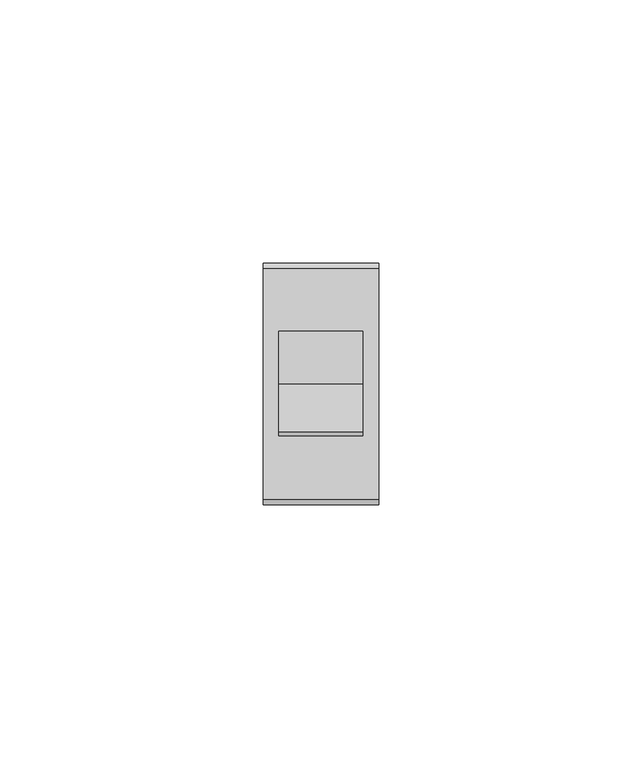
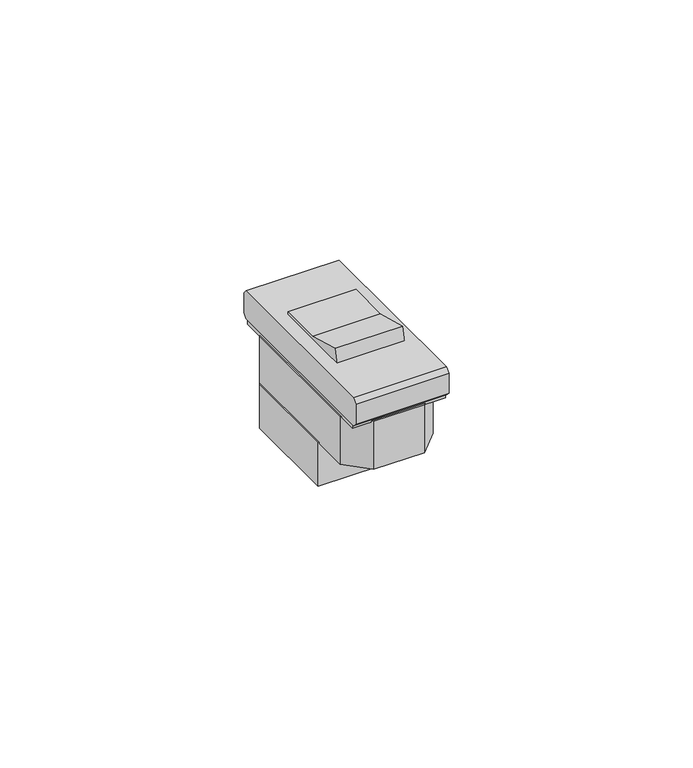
"""IFC4 building model written with IfcOpenShell, lengths in millimetres: proxy geometry, L4011 LI interruttore 2P 32A 2m  : L4011 LI Interruttore 2P 32A 2m."""

from ifc_helpers import new_model, si_unit, frame, origin, origin_with_axes, place, context, project, spatial, polyline, outline, extrude, source, transform, mapped, element, save


def electrical_fixtures_370c2459(model_context):
    return source(origin(), model_context, "Body", "SweptSolid", [
        extrude(outline(polyline([(-22.0, 1.0), (-22.9899495, 1.9899495), (-22.9899495, 6.9899495), (-22.0, 7.979899), (22.0, 7.979899), (22.9899495, 6.9899495), (22.9899495, 1.9899495), (22.0, 1.0), (-22.0, 1.0)])), frame((-11.0, 0.0, 0.0), z_axis=(1.0, 0.0, 0.0), x_axis=(0.0, 1.0, 0.0)), (0.0, 0.0, 1.0), 22.0),
        extrude(outline(polyline([(-11.0, -7.5), (-11.0, 16.5), (-9.0, 18.5), (9.0, 18.5), (11.0, 16.5), (11.0, -7.5), (-11.0, -7.5)])), frame((0.0, 0.0, -23.0), z_axis=(0.0, 0.0, 1.0), x_axis=(1.0, 0.0, 0.0)), (0.0, 0.0, 1.0), 11.0),
        extrude(outline(polyline([(11.0, -16.5), (6.0, -21.5), (-6.0, -21.5), (-11.0, -16.5), (-11.0, 16.5), (-6.0, 21.5), (6.0, 21.5), (11.0, 16.5), (11.0, -16.5)])), frame((0.0, 0.0, -12.0), z_axis=(0.0, 0.0, 1.0), x_axis=(1.0, 0.0, 0.0)), (0.0, 0.0, 1.0), 12.0),
        extrude(outline(polyline([(11.0, -21.5), (-11.0, -21.5), (-11.0, 21.5), (11.0, 21.5), (11.0, -21.5)])), origin_with_axes(), (0.0, 0.0, 1.0), 1.0),
        extrude(outline(polyline([(10.0, 8.979899), (10.0, 7.979899), (-10.0, 7.979899), (-9.080127, 11.4129117), (0.0, 8.979899), (10.0, 8.979899)])), frame((-8.0, 0.0, 0.0), z_axis=(1.0, 0.0, 0.0), x_axis=(0.0, 1.0, 0.0)), (0.0, 0.0, 1.0), 16.0),
    ])


if __name__ == "__main__":
    model = new_model("IFC4")
    model_context = context("Model", 3, world=origin())
    ifc_project = project(units=[si_unit("LENGTHUNIT", "METRE", prefix="MILLI")], contexts=[model_context])
    site = spatial("IfcSite", under=ifc_project)
    building = spatial("IfcBuilding", under=site)
    placement = place(None, origin())
    electrical_fixtures_shape = electrical_fixtures_370c2459(model_context)
    element("IfcBuildingElementProxy", 1, Name="L4011 LI interruttore 2P 32A 2m  : L4011 LI Interruttore 2P 32A 2m", ObjectType="L4011 LI interruttore 2P 32A 2m  : L4011 LI Interruttore 2P 32A 2m", at=placement, inside=building, context=model_context, shape_type="MappedRepresentation", body=[
        mapped(electrical_fixtures_shape, transform((0.0, 0.0, 0.0), x_axis=(1.0, 0.0, 0.0), y_axis=(0.0, 1.0, 0.0), z_axis=(0.0, 0.0, 1.0))),
    ])
    save(model, "model.ifc")
